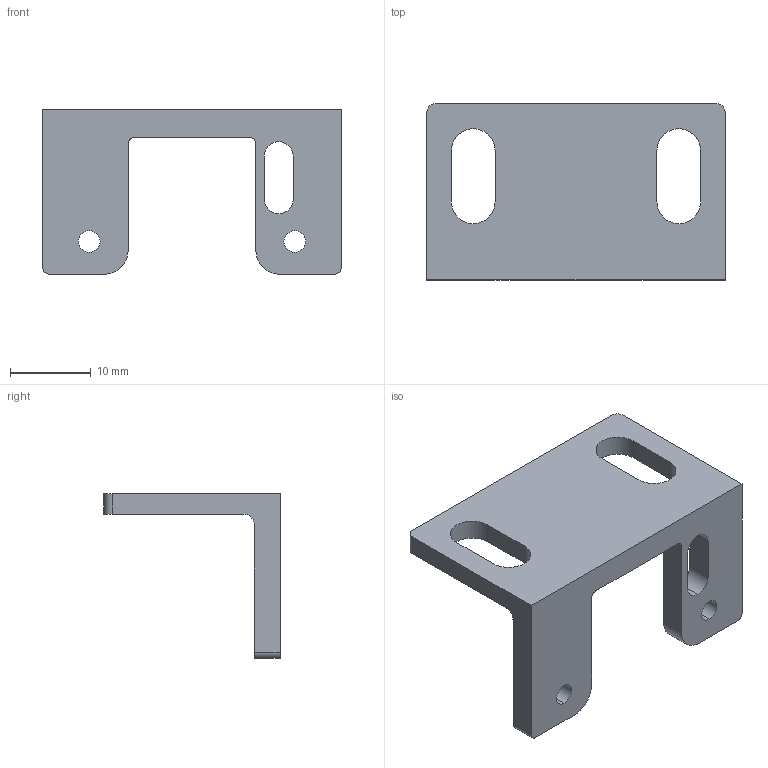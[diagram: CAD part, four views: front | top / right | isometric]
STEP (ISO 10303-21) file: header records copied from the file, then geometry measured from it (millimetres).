
FILE_DESCRIPTION (( 'STEP AP214' ), '1' );
FILE_NAME ('TACH_1.0_Bracket_Tall.STEP', '2017-09-07T13:27:54', ( 'ART' ), ( 'Microsoft' ), 'SwSTEP 2.0', 'SolidWorks 2015', '' );
FILE_SCHEMA (( 'AUTOMOTIVE_DESIGN' ));
Length unit declared in the file: inch
Products named in the file (1): TACH_1.0_Bracket_Tall
Bounding box: 36.83 x 21.78 x 20.35 mm (x, y, z)
Volume: 2857 mm3; surface area: 2823.6 mm2
Topology: 1 solids, 1 shells, 39 faces, 111 edges, 74 vertices
Faces by surface type: cylinder 20, plane 19
Entity records: 1351 total; most frequent: CARTESIAN_POINT 235, DIRECTION 229, ORIENTED_EDGE 222, EDGE_CURVE 111, AXIS2_PLACEMENT_3D 80, VERTEX_POINT 74, LINE 69, VECTOR 69
